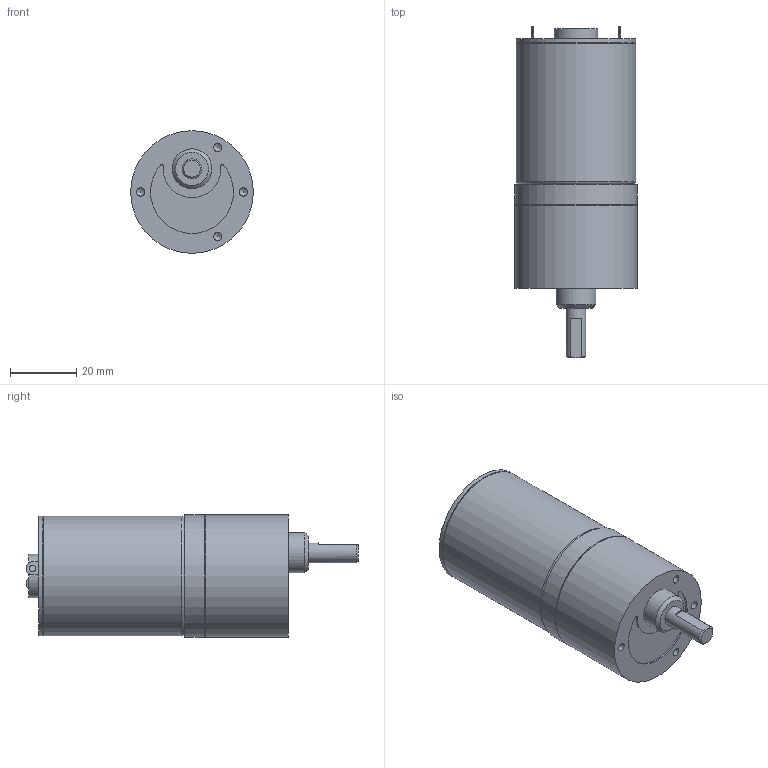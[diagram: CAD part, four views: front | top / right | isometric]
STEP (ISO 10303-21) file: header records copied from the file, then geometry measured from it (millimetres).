
FILE_DESCRIPTION((''),'2;1');
FILE_NAME('C:\Documents and Settings\SSEGAWA\デスクトップ\TP-3644D-HM-5.STP','2013-07-25T10:39:42',('SSEGAWA'),(''),'Autodesk Inventor 2010','Autodesk Inventor 2010','');
FILE_SCHEMA(('CONFIG_CONTROL_DESIGN'));
Length unit declared in the file: millimetre
Products named in the file (1): tp_3644dh_hm-5_Shrinkwrap_1
Bounding box: 37 x 100.1 x 37 mm (x, y, z)
Volume: 79606.9 mm3; surface area: 11936.3 mm2
Topology: 1 solids, 4 shells, 62 faces, 135 edges, 91 vertices
Faces by surface type: plane 26, cylinder 17, bspline 16, cone 2, torus 1
Full cylindrical faces by diameter (mm): 3 x1, 3.5 x1, 6 x1, 12 x1, 13 x1, 35.6 x1, 36 x2, 36.6 x1, 37 x2
Entity records: 1688 total; most frequent: CARTESIAN_POINT 494, DIRECTION 233, ORIENTED_EDGE 170, EDGE_LOOP 105, AXIS2_PLACEMENT_3D 103, EDGE_CURVE 85, VERTEX_POINT 70, STYLED_ITEM 63
